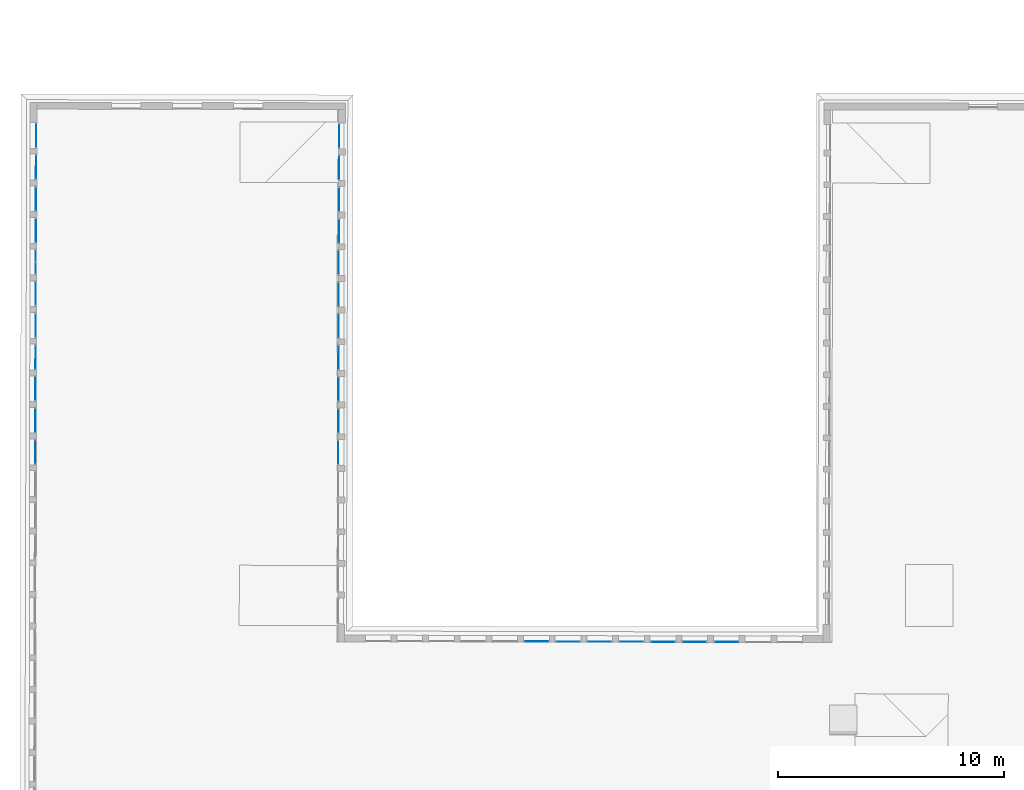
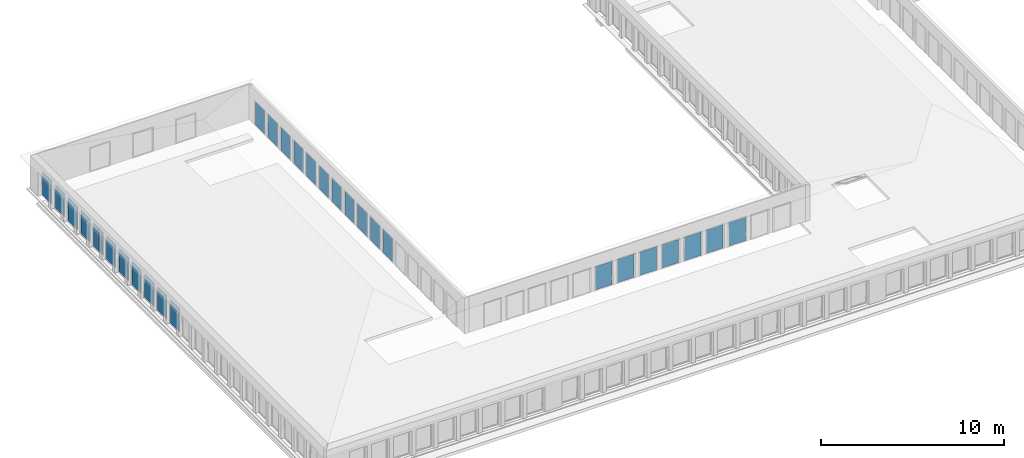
# One storey, part 17 of 26: 30 plates, 29 elements without a shape of their own.
"""IFC2X3 building model written with IfcOpenShell, lengths in metres."""

from ifc_helpers import new_model, entity, si_unit, converted_unit, derived_unit, direction, frame, frame_2d, origin, place, context, subcontext, project, spatial, rectangle, extrude, source, transform, mapped, material, layer, layer_set, type_object, type_shapes, element, aggregate, save


model = new_model("IFC2X3")

# Units and contexts
model_context = context("Model", 3, precision=1e-05, world=origin(), true_north=direction((6.123233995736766e-17, 1.0)))
body_context = subcontext(model_context, "Body", "Model", "MODEL_VIEW")
ifc_project = project(units=[si_unit("LENGTHUNIT", "METRE"), si_unit("AREAUNIT", "SQUARE_METRE"), converted_unit("PLANEANGLEUNIT", "DEGREE", entity("IfcPlaneAngleMeasure", 0.017453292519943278), si_unit("PLANEANGLEUNIT", "RADIAN"), dimensions=[0, 0, 0, 0, 0, 0, 0]), derived_unit("THERMALTRANSMITTANCEUNIT", [(si_unit("MASSUNIT", "GRAM", prefix="KILO"), 1), (si_unit("THERMODYNAMICTEMPERATUREUNIT", "KELVIN"), -1), (si_unit("TIMEUNIT", "SECOND"), -3)])], contexts=[model_context])

# Site, building, storey
site_placement = place(None, frame((1253.6752467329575, 2072.143113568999, 91.49999999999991), z_axis=(0.0, 0.0, 1.0), x_axis=(0.7237211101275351, 0.6900925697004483, 0.0)))
site = spatial("IfcSite", under=ifc_project, at=site_placement, Name="Surface", CompositionType="ELEMENT")
building_placement = place(site_placement, origin())
building = spatial("IfcBuilding", under=site, at=building_placement, CompositionType="ELEMENT")
storey_placement = place(building_placement, frame((0.0, 0.0, 7.0)))
storey = spatial("IfcBuildingStorey", under=building, at=storey_placement, Name="2-R+2", CompositionType="ELEMENT", Elevation=6.999999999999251)

# Curtain wall, plate
curtain_wall_type = type_object("IfcCurtainWallType", Name="Mur-rideau:Menuiserie Ext 1F+1OB VERTIC", PredefinedType="NOTDEFINED")
curtain_wall_1_placement = place(storey_placement, frame((0.0, 0.0, -7.0)))
curtain_wall_1 = element("IfcCurtainWall", 1, at=curtain_wall_1_placement, inside=storey, type_object=curtain_wall_type, Name="Mur-rideau:Menuiserie Ext 1F+1OB VERTIC", ObjectType="Mur-rideau:Menuiserie Ext 1F+1OB VERTIC")
ifc_material = material(Name="Verre")
ifc_layer = layer(ifc_material, 0.01)
ifc_layer_set = layer_set([ifc_layer], Name="Panneau système:Vitré")
plate_type_1 = type_object("IfcPlateType", Name="Panneau système:Vitré", PredefinedType="CURTAIN_PANEL", material=ifc_layer_set)
shared_shape_1 = source(origin(), body_context, "Body", "SweptSolid", [
    extrude(rectangle(XDim=0.01, YDim=1.0399999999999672, at=frame_2d((0.0, -8.881784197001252e-16), x_axis=(1.0, 0.0))), frame((0.0, 0.0, 0.0), z_axis=(0.0, 0.0, 1.0), x_axis=(0.0, 1.0, 0.0)), (0.0, 0.0, 1.0), 1.5499999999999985),
])
type_shapes(plate_type_1, [shared_shape_1])
plate_1_placement = place(curtain_wall_1_placement, frame((165.41850103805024, 26.472161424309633, 7.950000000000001), z_axis=(0.0, 0.0, 1.0), x_axis=(0.6911544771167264, 0.7227070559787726, 0.0)))
plate_1 = element("IfcPlate", 2, at=plate_1_placement, type_object=plate_type_1, material=ifc_material, Name="Panneau système:Vitré", ObjectType="Panneau système:Vitré", context=body_context, shape_type="MappedRepresentation", body=[
    mapped(shared_shape_1, transform((0.0, 0.0, 0.0), scale=1.0)),
])
aggregate(curtain_wall_1, [plate_1])

curtain_wall_2_placement = place(storey_placement, frame((0.0, 0.0, -7.0)))
curtain_wall_2 = element("IfcCurtainWall", 3, at=curtain_wall_2_placement, inside=storey, type_object=curtain_wall_type, Name="Mur-rideau:Menuiserie Ext 1F+1OB VERTIC", ObjectType="Mur-rideau:Menuiserie Ext 1F+1OB VERTIC")
plate_2_placement = place(curtain_wall_2_placement, frame((164.44973555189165, 25.46147184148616, 7.950000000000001), z_axis=(0.0, 0.0, 1.0), x_axis=(0.6911544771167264, 0.7227070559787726, 0.0)))
plate_2 = element("IfcPlate", 4, at=plate_2_placement, type_object=plate_type_1, material=ifc_material, Name="Panneau système:Vitré", ObjectType="Panneau système:Vitré", context=body_context, shape_type="MappedRepresentation", body=[
    mapped(shared_shape_1, transform((0.0, 0.0, 0.0), scale=1.0)),
])
aggregate(curtain_wall_2, [plate_2])

curtain_wall_3_placement = place(storey_placement, frame((0.0, 0.0, -7.0)))
curtain_wall_3 = element("IfcCurtainWall", 5, at=curtain_wall_3_placement, inside=storey, type_object=curtain_wall_type, Name="Mur-rideau:Menuiserie Ext 1F+1OB VERTIC", ObjectType="Mur-rideau:Menuiserie Ext 1F+1OB VERTIC")
plate_3_placement = place(curtain_wall_3_placement, frame((163.480970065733, 24.450782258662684, 7.950000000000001), z_axis=(0.0, 0.0, 1.0), x_axis=(0.6911544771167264, 0.7227070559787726, 0.0)))
plate_3 = element("IfcPlate", 6, at=plate_3_placement, type_object=plate_type_1, material=ifc_material, Name="Panneau système:Vitré", ObjectType="Panneau système:Vitré", context=body_context, shape_type="MappedRepresentation", body=[
    mapped(shared_shape_1, transform((0.0, 0.0, 0.0), scale=1.0)),
])
aggregate(curtain_wall_3, [plate_3])

curtain_wall_4_placement = place(storey_placement, frame((0.0, 0.0, -7.0)))
curtain_wall_4 = element("IfcCurtainWall", 7, at=curtain_wall_4_placement, inside=storey, type_object=curtain_wall_type, Name="Mur-rideau:Menuiserie Ext 1F+1OB VERTIC", ObjectType="Mur-rideau:Menuiserie Ext 1F+1OB VERTIC")
plate_4_placement = place(curtain_wall_4_placement, frame((162.51220457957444, 23.44009267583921, 7.950000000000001), z_axis=(0.0, 0.0, 1.0), x_axis=(0.6911544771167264, 0.7227070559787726, 0.0)))
plate_4 = element("IfcPlate", 8, at=plate_4_placement, type_object=plate_type_1, material=ifc_material, Name="Panneau système:Vitré", ObjectType="Panneau système:Vitré", context=body_context, shape_type="MappedRepresentation", body=[
    mapped(shared_shape_1, transform((0.0, 0.0, 0.0), scale=1.0)),
])
aggregate(curtain_wall_4, [plate_4])

curtain_wall_5_placement = place(storey_placement, frame((0.0, 0.0, -7.0)))
curtain_wall_5 = element("IfcCurtainWall", 9, at=curtain_wall_5_placement, inside=storey, type_object=curtain_wall_type, Name="Mur-rideau:Menuiserie Ext 1F+1OB VERTIC", ObjectType="Mur-rideau:Menuiserie Ext 1F+1OB VERTIC")
plate_5_placement = place(curtain_wall_5_placement, frame((160.5746736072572, 21.418713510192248, 7.950000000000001), z_axis=(0.0, 0.0, 1.0), x_axis=(0.6911544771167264, 0.7227070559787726, 0.0)))
plate_5 = element("IfcPlate", 10, at=plate_5_placement, type_object=plate_type_1, material=ifc_material, Name="Panneau système:Vitré", ObjectType="Panneau système:Vitré", context=body_context, shape_type="MappedRepresentation", body=[
    mapped(shared_shape_1, transform((0.0, 0.0, 0.0), scale=1.0)),
])
aggregate(curtain_wall_5, [plate_5])

curtain_wall_6_placement = place(storey_placement, frame((0.0, 0.0, -7.0)))
curtain_wall_6 = element("IfcCurtainWall", 11, at=curtain_wall_6_placement, inside=storey, type_object=curtain_wall_type, Name="Mur-rideau:Menuiserie Ext 1F+1OB VERTIC", ObjectType="Mur-rideau:Menuiserie Ext 1F+1OB VERTIC")
plate_6_placement = place(curtain_wall_6_placement, frame((159.60590812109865, 20.40802392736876, 7.950000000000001), z_axis=(0.0, 0.0, 1.0), x_axis=(0.6911544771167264, 0.7227070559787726, 0.0)))
plate_6 = element("IfcPlate", 12, at=plate_6_placement, type_object=plate_type_1, material=ifc_material, Name="Panneau système:Vitré", ObjectType="Panneau système:Vitré", context=body_context, shape_type="MappedRepresentation", body=[
    mapped(shared_shape_1, transform((0.0, 0.0, 0.0), scale=1.0)),
])
aggregate(curtain_wall_6, [plate_6])

curtain_wall_7_placement = place(storey_placement, frame((0.0, 0.0, -7.0)))
curtain_wall_7 = element("IfcCurtainWall", 13, at=curtain_wall_7_placement, inside=storey, type_object=curtain_wall_type, Name="Mur-rideau:Menuiserie Ext 1F+1OB VERTIC", ObjectType="Mur-rideau:Menuiserie Ext 1F+1OB VERTIC")
plate_7_placement = place(curtain_wall_7_placement, frame((158.63714263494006, 19.39733434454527, 7.950000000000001), z_axis=(0.0, 0.0, 1.0), x_axis=(0.6911544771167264, 0.7227070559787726, 0.0)))
plate_7 = element("IfcPlate", 14, at=plate_7_placement, type_object=plate_type_1, material=ifc_material, Name="Panneau système:Vitré", ObjectType="Panneau système:Vitré", context=body_context, shape_type="MappedRepresentation", body=[
    mapped(shared_shape_1, transform((0.0, 0.0, 0.0), scale=1.0)),
])
aggregate(curtain_wall_7, [plate_7])

curtain_wall_8_placement = place(storey_placement, frame((0.0, 0.0, -7.0)))
curtain_wall_8 = element("IfcCurtainWall", 15, at=curtain_wall_8_placement, inside=storey, type_object=curtain_wall_type, Name="Mur-rideau:Menuiserie Ext 1F+1OB VERTIC", ObjectType="Mur-rideau:Menuiserie Ext 1F+1OB VERTIC")
plate_8_placement = place(curtain_wall_8_placement, frame((157.66837714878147, 18.386644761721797, 7.950000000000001), z_axis=(0.0, 0.0, 1.0), x_axis=(0.6911544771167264, 0.7227070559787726, 0.0)))
plate_8 = element("IfcPlate", 16, at=plate_8_placement, type_object=plate_type_1, material=ifc_material, Name="Panneau système:Vitré", ObjectType="Panneau système:Vitré", context=body_context, shape_type="MappedRepresentation", body=[
    mapped(shared_shape_1, transform((0.0, 0.0, 0.0), scale=1.0)),
])
aggregate(curtain_wall_8, [plate_8])

curtain_wall_9_placement = place(storey_placement, frame((0.0, 0.0, -7.0)))
curtain_wall_9 = element("IfcCurtainWall", 17, at=curtain_wall_9_placement, inside=storey, type_object=curtain_wall_type, Name="Mur-rideau:Menuiserie Ext 1F+1OB VERTIC", ObjectType="Mur-rideau:Menuiserie Ext 1F+1OB VERTIC")
plate_9_placement = place(curtain_wall_9_placement, frame((156.69961166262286, 17.375955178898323, 7.950000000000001), z_axis=(0.0, 0.0, 1.0), x_axis=(0.6911544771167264, 0.7227070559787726, 0.0)))
plate_9 = element("IfcPlate", 18, at=plate_9_placement, type_object=plate_type_1, material=ifc_material, Name="Panneau système:Vitré", ObjectType="Panneau système:Vitré", context=body_context, shape_type="MappedRepresentation", body=[
    mapped(shared_shape_1, transform((0.0, 0.0, 0.0), scale=1.0)),
])
aggregate(curtain_wall_9, [plate_9])

curtain_wall_10_placement = place(storey_placement, frame((0.0, 0.0, -7.0)))
curtain_wall_10 = element("IfcCurtainWall", 19, at=curtain_wall_10_placement, inside=storey, type_object=curtain_wall_type, Name="Mur-rideau:Menuiserie Ext 1F+1OB VERTIC", ObjectType="Mur-rideau:Menuiserie Ext 1F+1OB VERTIC")
plate_10_placement = place(curtain_wall_10_placement, frame((155.73084617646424, 16.36526559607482, 7.950000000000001), z_axis=(0.0, 0.0, 1.0), x_axis=(0.6911544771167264, 0.7227070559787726, 0.0)))
plate_10 = element("IfcPlate", 20, at=plate_10_placement, type_object=plate_type_1, material=ifc_material, Name="Panneau système:Vitré", ObjectType="Panneau système:Vitré", context=body_context, shape_type="MappedRepresentation", body=[
    mapped(shared_shape_1, transform((0.0, 0.0, 0.0), scale=1.0)),
])
aggregate(curtain_wall_10, [plate_10])

curtain_wall_11_placement = place(storey_placement, frame((0.0, 0.0, -7.0)))
curtain_wall_11 = element("IfcCurtainWall", 21, at=curtain_wall_11_placement, inside=storey, type_object=curtain_wall_type, Name="Mur-rideau:Menuiserie Ext 1F+1OB VERTIC", ObjectType="Mur-rideau:Menuiserie Ext 1F+1OB VERTIC")
plate_11_placement = place(curtain_wall_11_placement, frame((175.10029921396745, 17.206155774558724, 7.950000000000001), z_axis=(0.0, 0.0, 1.0), x_axis=(0.6909838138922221, 0.7228702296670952, 0.0)))
plate_11 = element("IfcPlate", 22, at=plate_11_placement, type_object=plate_type_1, material=ifc_material, Name="Panneau système:Vitré", ObjectType="Panneau système:Vitré", context=body_context, shape_type="MappedRepresentation", body=[
    mapped(shared_shape_1, transform((0.0, 0.0, 0.0), scale=1.0)),
])
aggregate(curtain_wall_11, [plate_11])

curtain_wall_12_placement = place(storey_placement, frame((0.0, 0.0, -7.0)))
curtain_wall_12 = element("IfcCurtainWall", 23, at=curtain_wall_12_placement, inside=storey, type_object=curtain_wall_type, Name="Mur-rideau:Menuiserie Ext 1F+1OB VERTIC", ObjectType="Mur-rideau:Menuiserie Ext 1F+1OB VERTIC")
plate_12_placement = place(curtain_wall_12_placement, frame((174.1315337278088, 16.195466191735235, 7.950000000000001), z_axis=(0.0, 0.0, 1.0), x_axis=(0.6909838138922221, 0.7228702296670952, 0.0)))
plate_12 = element("IfcPlate", 24, at=plate_12_placement, type_object=plate_type_1, material=ifc_material, Name="Panneau système:Vitré", ObjectType="Panneau système:Vitré", context=body_context, shape_type="MappedRepresentation", body=[
    mapped(shared_shape_1, transform((0.0, 0.0, 0.0), scale=1.0)),
])
aggregate(curtain_wall_12, [plate_12])

curtain_wall_13_placement = place(storey_placement, frame((0.0, 0.0, -7.0)))
curtain_wall_13 = element("IfcCurtainWall", 25, at=curtain_wall_13_placement, inside=storey, type_object=curtain_wall_type, Name="Mur-rideau:Menuiserie Ext 1F+1OB VERTIC", ObjectType="Mur-rideau:Menuiserie Ext 1F+1OB VERTIC")
plate_13_placement = place(curtain_wall_13_placement, frame((173.1627682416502, 15.184776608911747, 7.950000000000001), z_axis=(0.0, 0.0, 1.0), x_axis=(0.6909838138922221, 0.7228702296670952, 0.0)))
plate_13 = element("IfcPlate", 26, at=plate_13_placement, type_object=plate_type_1, material=ifc_material, Name="Panneau système:Vitré", ObjectType="Panneau système:Vitré", context=body_context, shape_type="MappedRepresentation", body=[
    mapped(shared_shape_1, transform((0.0, 0.0, 0.0), scale=1.0)),
])
aggregate(curtain_wall_13, [plate_13])

curtain_wall_14_placement = place(storey_placement, frame((0.0, 0.0, -7.0)))
curtain_wall_14 = element("IfcCurtainWall", 27, at=curtain_wall_14_placement, inside=storey, type_object=curtain_wall_type, Name="Mur-rideau:Menuiserie Ext 1F+1OB VERTIC", ObjectType="Mur-rideau:Menuiserie Ext 1F+1OB VERTIC")
plate_14_placement = place(curtain_wall_14_placement, frame((172.19400275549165, 14.174087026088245, 7.950000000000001), z_axis=(0.0, 0.0, 1.0), x_axis=(0.6909838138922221, 0.7228702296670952, 0.0)))
plate_14 = element("IfcPlate", 28, at=plate_14_placement, type_object=plate_type_1, material=ifc_material, Name="Panneau système:Vitré", ObjectType="Panneau système:Vitré", context=body_context, shape_type="MappedRepresentation", body=[
    mapped(shared_shape_1, transform((0.0, 0.0, 0.0), scale=1.0)),
])
aggregate(curtain_wall_14, [plate_14])

curtain_wall_15_placement = place(storey_placement, frame((0.0, 0.0, -7.0)))
curtain_wall_15 = element("IfcCurtainWall", 29, at=curtain_wall_15_placement, inside=storey, type_object=curtain_wall_type, Name="Mur-rideau:Menuiserie Ext 1F+1OB VERTIC", ObjectType="Mur-rideau:Menuiserie Ext 1F+1OB VERTIC")
plate_15_placement = place(curtain_wall_15_placement, frame((171.22523726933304, 13.163397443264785, 7.950000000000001), z_axis=(0.0, 0.0, 1.0), x_axis=(0.6909838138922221, 0.7228702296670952, 0.0)))
plate_15 = element("IfcPlate", 30, at=plate_15_placement, type_object=plate_type_1, material=ifc_material, Name="Panneau système:Vitré", ObjectType="Panneau système:Vitré", context=body_context, shape_type="MappedRepresentation", body=[
    mapped(shared_shape_1, transform((0.0, 0.0, 0.0), scale=1.0)),
])
aggregate(curtain_wall_15, [plate_15])

curtain_wall_16_placement = place(storey_placement, frame((0.0, 0.0, -7.0)))
curtain_wall_16 = element("IfcCurtainWall", 31, at=curtain_wall_16_placement, inside=storey, type_object=curtain_wall_type, Name="Mur-rideau:Menuiserie Ext 1F+1OB VERTIC", ObjectType="Mur-rideau:Menuiserie Ext 1F+1OB VERTIC")
plate_16_placement = place(curtain_wall_16_placement, frame((170.25647178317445, 12.152707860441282, 7.950000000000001), z_axis=(0.0, 0.0, 1.0), x_axis=(0.6909838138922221, 0.7228702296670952, 0.0)))
plate_16 = element("IfcPlate", 32, at=plate_16_placement, type_object=plate_type_1, material=ifc_material, Name="Panneau système:Vitré", ObjectType="Panneau système:Vitré", context=body_context, shape_type="MappedRepresentation", body=[
    mapped(shared_shape_1, transform((0.0, 0.0, 0.0), scale=1.0)),
])
aggregate(curtain_wall_16, [plate_16])

curtain_wall_17_placement = place(storey_placement, frame((0.0, 0.0, -7.0)))
curtain_wall_17 = element("IfcCurtainWall", 33, at=curtain_wall_17_placement, inside=storey, type_object=curtain_wall_type, Name="Mur-rideau:Menuiserie Ext 1F+1OB VERTIC", ObjectType="Mur-rideau:Menuiserie Ext 1F+1OB VERTIC")
plate_17_placement = place(curtain_wall_17_placement, frame((169.28770629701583, 11.142018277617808, 7.950000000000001), z_axis=(0.0, 0.0, 1.0), x_axis=(0.6909838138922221, 0.7228702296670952, 0.0)))
plate_17 = element("IfcPlate", 34, at=plate_17_placement, type_object=plate_type_1, material=ifc_material, Name="Panneau système:Vitré", ObjectType="Panneau système:Vitré", context=body_context, shape_type="MappedRepresentation", body=[
    mapped(shared_shape_1, transform((0.0, 0.0, 0.0), scale=1.0)),
])
aggregate(curtain_wall_17, [plate_17])

curtain_wall_18_placement = place(storey_placement, frame((0.0, 0.0, -7.0)))
curtain_wall_18 = element("IfcCurtainWall", 35, at=curtain_wall_18_placement, inside=storey, type_object=curtain_wall_type, Name="Mur-rideau:Menuiserie Ext 1F+1OB VERTIC", ObjectType="Mur-rideau:Menuiserie Ext 1F+1OB VERTIC")
plate_18_placement = place(curtain_wall_18_placement, frame((168.3189408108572, 10.13132869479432, 7.950000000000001), z_axis=(0.0, 0.0, 1.0), x_axis=(0.6909838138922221, 0.7228702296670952, 0.0)))
plate_18 = element("IfcPlate", 36, at=plate_18_placement, type_object=plate_type_1, material=ifc_material, Name="Panneau système:Vitré", ObjectType="Panneau système:Vitré", context=body_context, shape_type="MappedRepresentation", body=[
    mapped(shared_shape_1, transform((0.0, 0.0, 0.0), scale=1.0)),
])
aggregate(curtain_wall_18, [plate_18])

curtain_wall_19_placement = place(storey_placement, frame((0.0, 0.0, -7.0)))
curtain_wall_19 = element("IfcCurtainWall", 37, at=curtain_wall_19_placement, inside=storey, type_object=curtain_wall_type, Name="Mur-rideau:Menuiserie Ext 1F+1OB VERTIC", ObjectType="Mur-rideau:Menuiserie Ext 1F+1OB VERTIC")
plate_19_placement = place(curtain_wall_19_placement, frame((167.35017532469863, 9.120639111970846, 7.950000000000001), z_axis=(0.0, 0.0, 1.0), x_axis=(0.6909838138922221, 0.7228702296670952, 0.0)))
plate_19 = element("IfcPlate", 38, at=plate_19_placement, type_object=plate_type_1, material=ifc_material, Name="Panneau système:Vitré", ObjectType="Panneau système:Vitré", context=body_context, shape_type="MappedRepresentation", body=[
    mapped(shared_shape_1, transform((0.0, 0.0, 0.0), scale=1.0)),
])
aggregate(curtain_wall_19, [plate_19])

curtain_wall_20_placement = place(storey_placement, frame((0.0, 0.0, -7.0)))
curtain_wall_20 = element("IfcCurtainWall", 39, at=curtain_wall_20_placement, inside=storey, type_object=curtain_wall_type, Name="Mur-rideau:Menuiserie Ext 1F+1OB VERTIC", ObjectType="Mur-rideau:Menuiserie Ext 1F+1OB VERTIC")
plate_20_placement = place(curtain_wall_20_placement, frame((166.38140983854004, 8.109949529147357, 7.950000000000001), z_axis=(0.0, 0.0, 1.0), x_axis=(0.6909838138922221, 0.7228702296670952, 0.0)))
plate_20 = element("IfcPlate", 40, at=plate_20_placement, type_object=plate_type_1, material=ifc_material, Name="Panneau système:Vitré", ObjectType="Panneau système:Vitré", context=body_context, shape_type="MappedRepresentation", body=[
    mapped(shared_shape_1, transform((0.0, 0.0, 0.0), scale=1.0)),
])
aggregate(curtain_wall_20, [plate_20])

curtain_wall_21_placement = place(storey_placement, frame((0.0, 0.0, -7.0)))
curtain_wall_21 = element("IfcCurtainWall", 41, at=curtain_wall_21_placement, inside=storey, type_object=curtain_wall_type, Name="Mur-rideau:Menuiserie Ext 1F+1OB VERTIC", ObjectType="Mur-rideau:Menuiserie Ext 1F+1OB VERTIC")
plate_21_placement = place(curtain_wall_21_placement, frame((165.41264435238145, 7.099259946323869, 7.950000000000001), z_axis=(0.0, 0.0, 1.0), x_axis=(0.6909838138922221, 0.7228702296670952, 0.0)))
plate_21 = element("IfcPlate", 42, at=plate_21_placement, type_object=plate_type_1, material=ifc_material, Name="Panneau système:Vitré", ObjectType="Panneau système:Vitré", context=body_context, shape_type="MappedRepresentation", body=[
    mapped(shared_shape_1, transform((0.0, 0.0, 0.0), scale=1.0)),
])
aggregate(curtain_wall_21, [plate_21])

curtain_wall_22_placement = place(storey_placement, frame((0.0, 0.0, -7.0)))
curtain_wall_22 = element("IfcCurtainWall", 43, at=curtain_wall_22_placement, inside=storey, type_object=curtain_wall_type, Name="Mur-rideau:Menuiserie Ext 1F+1OB VERTIC", ObjectType="Mur-rideau:Menuiserie Ext 1F+1OB VERTIC")
plate_22_placement = place(curtain_wall_22_placement, frame((165.9827885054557, -4.9972356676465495, 7.950000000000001), z_axis=(0.0, 0.0, 1.0), x_axis=(0.7228702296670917, -0.6909838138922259, 0.0)))
plate_22 = element("IfcPlate", 44, at=plate_22_placement, type_object=plate_type_1, material=ifc_material, Name="Panneau système:Vitré", ObjectType="Panneau système:Vitré", context=body_context, shape_type="MappedRepresentation", body=[
    mapped(shared_shape_1, transform((0.0, 0.0, 0.0), scale=1.0)),
])
aggregate(curtain_wall_22, [plate_22])

curtain_wall_23_placement = place(storey_placement, frame((0.0, 0.0, -7.0)))
curtain_wall_23 = element("IfcCurtainWall", 45, at=curtain_wall_23_placement, inside=storey, type_object=curtain_wall_type, Name="Mur-rideau:Menuiserie Ext 1F+1OB VERTIC", ObjectType="Mur-rideau:Menuiserie Ext 1F+1OB VERTIC")
plate_23_placement = place(curtain_wall_23_placement, frame((166.99347808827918, -5.966001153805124, 7.950000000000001), z_axis=(0.0, 0.0, 1.0), x_axis=(0.7228702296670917, -0.6909838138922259, 0.0)))
plate_23 = element("IfcPlate", 46, at=plate_23_placement, type_object=plate_type_1, material=ifc_material, Name="Panneau système:Vitré", ObjectType="Panneau système:Vitré", context=body_context, shape_type="MappedRepresentation", body=[
    mapped(shared_shape_1, transform((0.0, 0.0, 0.0), scale=1.0)),
])
aggregate(curtain_wall_23, [plate_23])

curtain_wall_24_placement = place(storey_placement, frame((0.0, 0.0, -7.0)))
curtain_wall_24 = element("IfcCurtainWall", 47, at=curtain_wall_24_placement, inside=storey, type_object=curtain_wall_type, Name="Mur-rideau:Menuiserie Ext 1F+1OB VERTIC", ObjectType="Mur-rideau:Menuiserie Ext 1F+1OB VERTIC")
plate_24_placement = place(curtain_wall_24_placement, frame((168.00416767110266, -6.934766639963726, 7.950000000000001), z_axis=(0.0, 0.0, 1.0), x_axis=(0.7228702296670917, -0.6909838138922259, 0.0)))
plate_24 = element("IfcPlate", 48, at=plate_24_placement, type_object=plate_type_1, material=ifc_material, Name="Panneau système:Vitré", ObjectType="Panneau système:Vitré", context=body_context, shape_type="MappedRepresentation", body=[
    mapped(shared_shape_1, transform((0.0, 0.0, 0.0), scale=1.0)),
])
aggregate(curtain_wall_24, [plate_24])

curtain_wall_25_placement = place(storey_placement, frame((0.0, 0.0, -7.0)))
curtain_wall_25 = element("IfcCurtainWall", 49, at=curtain_wall_25_placement, inside=storey, type_object=curtain_wall_type, Name="Mur-rideau:Menuiserie Ext 1F+1OB VERTIC", ObjectType="Mur-rideau:Menuiserie Ext 1F+1OB VERTIC")
plate_25_placement = place(curtain_wall_25_placement, frame((169.01485725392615, -7.903532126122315, 7.950000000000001), z_axis=(0.0, 0.0, 1.0), x_axis=(0.7228702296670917, -0.6909838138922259, 0.0)))
plate_25 = element("IfcPlate", 50, at=plate_25_placement, type_object=plate_type_1, material=ifc_material, Name="Panneau système:Vitré", ObjectType="Panneau système:Vitré", context=body_context, shape_type="MappedRepresentation", body=[
    mapped(shared_shape_1, transform((0.0, 0.0, 0.0), scale=1.0)),
])
aggregate(curtain_wall_25, [plate_25])

curtain_wall_26_placement = place(storey_placement, frame((0.0, 0.0, -7.0)))
curtain_wall_26 = element("IfcCurtainWall", 51, at=curtain_wall_26_placement, inside=storey, type_object=curtain_wall_type, Name="Mur-rideau:Menuiserie Ext 1F+1OB VERTIC", ObjectType="Mur-rideau:Menuiserie Ext 1F+1OB VERTIC")
plate_26_placement = place(curtain_wall_26_placement, frame((170.02554683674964, -8.872297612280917, 7.950000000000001), z_axis=(0.0, 0.0, 1.0), x_axis=(0.7228702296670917, -0.6909838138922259, 0.0)))
plate_26 = element("IfcPlate", 52, at=plate_26_placement, type_object=plate_type_1, material=ifc_material, Name="Panneau système:Vitré", ObjectType="Panneau système:Vitré", context=body_context, shape_type="MappedRepresentation", body=[
    mapped(shared_shape_1, transform((0.0, 0.0, 0.0), scale=1.0)),
])
aggregate(curtain_wall_26, [plate_26])

curtain_wall_27_placement = place(storey_placement, frame((0.0, 0.0, -7.0)))
curtain_wall_27 = element("IfcCurtainWall", 53, at=curtain_wall_27_placement, inside=storey, type_object=curtain_wall_type, Name="Mur-rideau:Menuiserie Ext 1F+1OB VERTIC", ObjectType="Mur-rideau:Menuiserie Ext 1F+1OB VERTIC")
plate_27_placement = place(curtain_wall_27_placement, frame((171.03623641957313, -9.841063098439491, 7.950000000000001), z_axis=(0.0, 0.0, 1.0), x_axis=(0.7228702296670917, -0.6909838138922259, 0.0)))
plate_27 = element("IfcPlate", 54, at=plate_27_placement, type_object=plate_type_1, material=ifc_material, Name="Panneau système:Vitré", ObjectType="Panneau système:Vitré", context=body_context, shape_type="MappedRepresentation", body=[
    mapped(shared_shape_1, transform((0.0, 0.0, 0.0), scale=1.0)),
])
aggregate(curtain_wall_27, [plate_27])

curtain_wall_28_placement = place(storey_placement, frame((0.0, 0.0, -7.0)))
curtain_wall_28 = element("IfcCurtainWall", 55, at=curtain_wall_28_placement, inside=storey, type_object=curtain_wall_type, Name="Mur-rideau:Menuiserie Ext 1F+1OB VERTIC", ObjectType="Mur-rideau:Menuiserie Ext 1F+1OB VERTIC")
plate_28_placement = place(curtain_wall_28_placement, frame((172.04692600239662, -10.809828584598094, 7.950000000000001), z_axis=(0.0, 0.0, 1.0), x_axis=(0.7228702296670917, -0.6909838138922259, 0.0)))
plate_28 = element("IfcPlate", 56, at=plate_28_placement, type_object=plate_type_1, material=ifc_material, Name="Panneau système:Vitré", ObjectType="Panneau système:Vitré", context=body_context, shape_type="MappedRepresentation", body=[
    mapped(shared_shape_1, transform((0.0, 0.0, 0.0), scale=1.0)),
])
aggregate(curtain_wall_28, [plate_28])

# Curtain wall, plates
curtain_wall_29_placement = place(storey_placement, frame((0.0, 0.0, -7.0)))
curtain_wall_29 = element("IfcCurtainWall", 57, at=curtain_wall_29_placement, inside=storey, type_object=curtain_wall_type, Name="Mur-rideau:Menuiserie Ext 1F+1OB VERTIC", ObjectType="Mur-rideau:Menuiserie Ext 1F+1OB VERTIC")
plate_type_2 = type_object("IfcPlateType", Name="Panneau système:Vitré", PredefinedType="CURTAIN_PANEL", material=ifc_layer_set)
shared_shape_2 = source(origin(), body_context, "Body", "SweptSolid", [
    extrude(rectangle(XDim=0.01, YDim=0.49499999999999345, at=frame_2d((0.0, -2.9976021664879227e-15), x_axis=(1.0, 0.0))), frame((0.0, 0.0, 0.0), z_axis=(0.0, 0.0, 1.0), x_axis=(0.0, 1.0, 0.0)), (0.0, 0.0, 1.0), 1.5499999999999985),
])
type_shapes(plate_type_2, [shared_shape_2])
plate_29_placement = place(curtain_wall_29_placement, frame((161.35509949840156, 22.232465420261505, 7.950000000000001), z_axis=(0.0, 0.0, 1.0), x_axis=(0.6911544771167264, 0.7227070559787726, 0.0)))
plate_29 = element("IfcPlate", 58, at=plate_29_placement, type_object=plate_type_2, material=ifc_material, Name="Panneau système:Vitré", ObjectType="Panneau système:Vitré", context=body_context, shape_type="MappedRepresentation", body=[
    mapped(shared_shape_2, transform((0.0, 0.0, 0.0), scale=1.0)),
])
plate_30_placement = place(curtain_wall_29_placement, frame((161.73177868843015, 22.62634076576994, 7.950000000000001), z_axis=(0.0, 0.0, 1.0), x_axis=(0.6911544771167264, 0.7227070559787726, 0.0)))
plate_30 = element("IfcPlate", 59, at=plate_30_placement, type_object=plate_type_2, material=ifc_material, Name="Panneau système:Vitré", ObjectType="Panneau système:Vitré", context=body_context, shape_type="MappedRepresentation", body=[
    mapped(shared_shape_2, transform((0.0, 0.0, 0.0), scale=1.0)),
])
aggregate(curtain_wall_29, [plate_29, plate_30])

save(model, "model.ifc")
